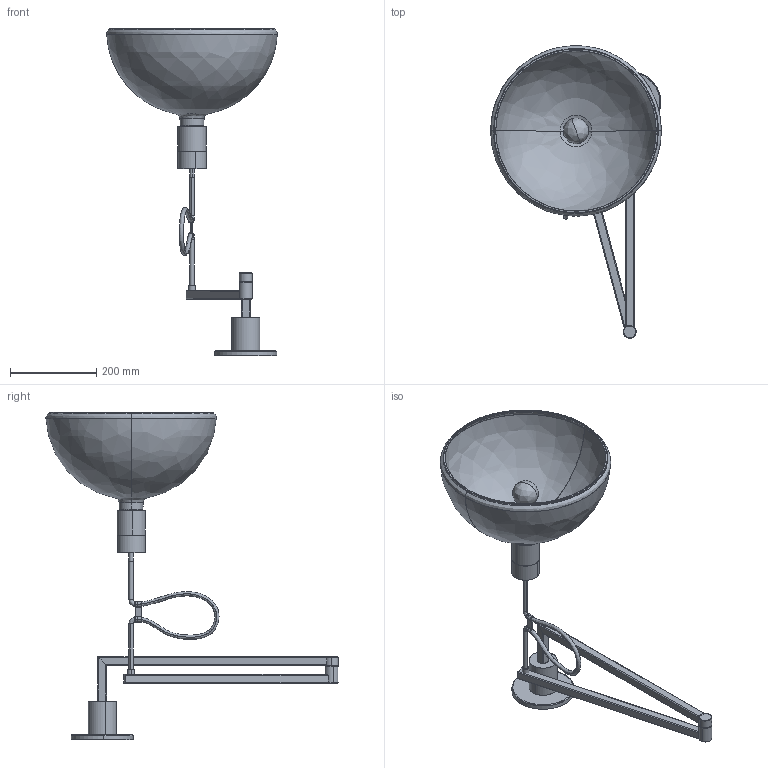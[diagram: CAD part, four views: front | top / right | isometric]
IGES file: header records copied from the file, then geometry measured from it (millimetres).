
Start section: SolidWorks IGES file using analytic representation for surfaces
Global section: file name: C:\Users\tungari.NEMOLIGHTING\Desktop\3D\PENDANT\3D_AS41C\NO_DEFEATURE\3D_AS41C.IGS; native system: SolidWorks 2016; preprocessor: SolidWorks 2016; author: tungari; date: 180222.145532; units: millimetre
Bounding box: 394.9 x 676.58 x 759.25 mm (x, y, z)
Surface area: 765256.1 mm2 (no closed solid volume)
Topology: 0 solids, 0 shells, 240 faces, 4324 edges, 4314 vertices
Faces by surface type: revolution 133, bspline 107
